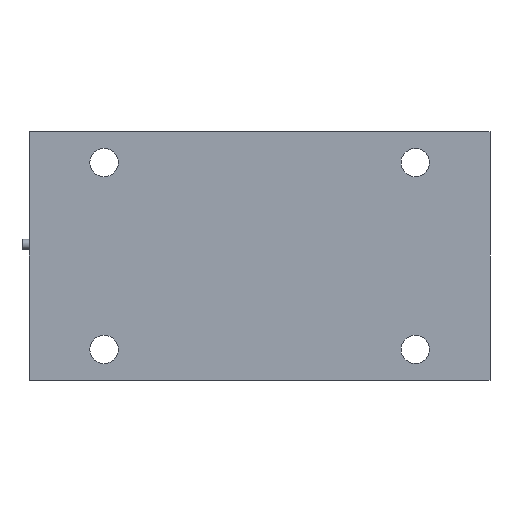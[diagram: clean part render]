
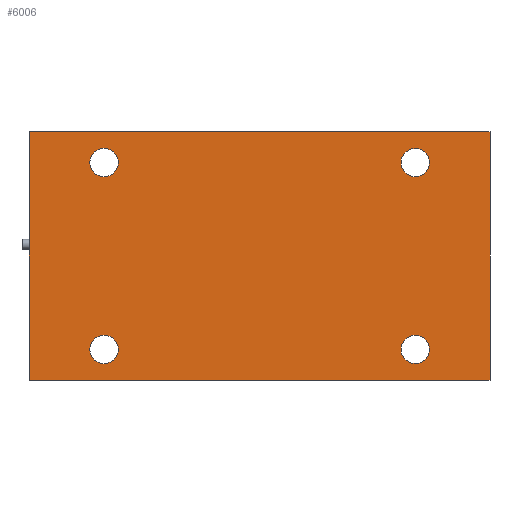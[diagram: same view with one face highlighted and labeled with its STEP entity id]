
A CAD part, front view. The second image highlights one B-rep face of the part: STEP entity #6006.
In plain terms, the highlighted planar face has unit normal (0, -1, 0).
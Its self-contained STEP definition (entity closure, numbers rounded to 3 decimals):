
#374=FACE_BOUND('',#961,.T.);
#375=FACE_BOUND('',#962,.T.);
#376=FACE_BOUND('',#963,.T.);
#377=FACE_BOUND('',#964,.T.);
#440=PLANE('',#6456);
#594=FACE_OUTER_BOUND('',#960,.T.);
#960=EDGE_LOOP('',(#4151,#4152,#4153,#4154));
#961=EDGE_LOOP('',(#4155));
#962=EDGE_LOOP('',(#4156));
#963=EDGE_LOOP('',(#4157));
#964=EDGE_LOOP('',(#4158));
#1380=LINE('',#8626,#1855);
#1384=LINE('',#8634,#1859);
#1387=LINE('',#8640,#1862);
#1390=LINE('',#8645,#1865);
#1855=VECTOR('',#7108,10.);
#1859=VECTOR('',#7114,10.);
#1862=VECTOR('',#7119,10.);
#1865=VECTOR('',#7124,10.);
#2291=CIRCLE('',#6441,7.25);
#2293=CIRCLE('',#6444,7.25);
#2295=CIRCLE('',#6447,7.25);
#2297=CIRCLE('',#6450,7.25);
#2487=VERTEX_POINT('',#8602);
#2489=VERTEX_POINT('',#8608);
#2491=VERTEX_POINT('',#8614);
#2493=VERTEX_POINT('',#8620);
#2494=VERTEX_POINT('',#8624);
#2495=VERTEX_POINT('',#8625);
#2498=VERTEX_POINT('',#8633);
#2500=VERTEX_POINT('',#8639);
#3115=EDGE_CURVE('',#2487,#2487,#2291,.T.);
#3118=EDGE_CURVE('',#2489,#2489,#2293,.T.);
#3121=EDGE_CURVE('',#2491,#2491,#2295,.T.);
#3124=EDGE_CURVE('',#2493,#2493,#2297,.T.);
#3125=EDGE_CURVE('',#2494,#2495,#1380,.T.);
#3129=EDGE_CURVE('',#2495,#2498,#1384,.T.);
#3132=EDGE_CURVE('',#2498,#2500,#1387,.T.);
#3135=EDGE_CURVE('',#2500,#2494,#1390,.T.);
#4151=ORIENTED_EDGE('',*,*,#3135,.T.);
#4152=ORIENTED_EDGE('',*,*,#3125,.T.);
#4153=ORIENTED_EDGE('',*,*,#3129,.T.);
#4154=ORIENTED_EDGE('',*,*,#3132,.T.);
#4155=ORIENTED_EDGE('',*,*,#3124,.F.);
#4156=ORIENTED_EDGE('',*,*,#3121,.F.);
#4157=ORIENTED_EDGE('',*,*,#3118,.F.);
#4158=ORIENTED_EDGE('',*,*,#3115,.F.);
#6006=ADVANCED_FACE('',(#594,#374,#375,#376,#377),#440,.F.);
#6441=AXIS2_PLACEMENT_3D('',#8604,#7083,#7084);
#6444=AXIS2_PLACEMENT_3D('',#8610,#7090,#7091);
#6447=AXIS2_PLACEMENT_3D('',#8616,#7097,#7098);
#6450=AXIS2_PLACEMENT_3D('',#8622,#7104,#7105);
#6456=AXIS2_PLACEMENT_3D('',#8648,#7128,#7129);
#7083=DIRECTION('center_axis',(0.,-1.,0.));
#7084=DIRECTION('ref_axis',(1.,0.,0.));
#7090=DIRECTION('center_axis',(0.,-1.,0.));
#7091=DIRECTION('ref_axis',(1.,0.,0.));
#7097=DIRECTION('center_axis',(0.,-1.,0.));
#7098=DIRECTION('ref_axis',(1.,0.,0.));
#7104=DIRECTION('center_axis',(0.,-1.,0.));
#7105=DIRECTION('ref_axis',(1.,0.,0.));
#7108=DIRECTION('',(0.,0.,1.));
#7114=DIRECTION('',(-1.,0.,0.));
#7119=DIRECTION('',(0.,0.,-1.));
#7124=DIRECTION('',(1.,0.,0.));
#7128=DIRECTION('center_axis',(0.,1.,0.));
#7129=DIRECTION('ref_axis',(1.,0.,0.));
#8602=CARTESIAN_POINT('',(-86.65,0.,-47.65));
#8604=CARTESIAN_POINT('Origin',(-79.4,0.,-47.65));
#8608=CARTESIAN_POINT('',(-86.65,0.,47.65));
#8610=CARTESIAN_POINT('Origin',(-79.4,0.,47.65));
#8614=CARTESIAN_POINT('',(72.15,0.,47.65));
#8616=CARTESIAN_POINT('Origin',(79.4,0.,47.65));
#8620=CARTESIAN_POINT('',(72.15,0.,-47.65));
#8622=CARTESIAN_POINT('Origin',(79.4,0.,-47.65));
#8624=CARTESIAN_POINT('',(117.5,0.,-63.5));
#8625=CARTESIAN_POINT('',(117.5,0.,63.5));
#8626=CARTESIAN_POINT('',(117.5,0.,-63.5));
#8633=CARTESIAN_POINT('',(-117.5,0.,63.5));
#8634=CARTESIAN_POINT('',(117.5,0.,63.5));
#8639=CARTESIAN_POINT('',(-117.5,0.,-63.5));
#8640=CARTESIAN_POINT('',(-117.5,0.,63.5));
#8645=CARTESIAN_POINT('',(-117.5,0.,-63.5));
#8648=CARTESIAN_POINT('Origin',(0.,0.,0.));
